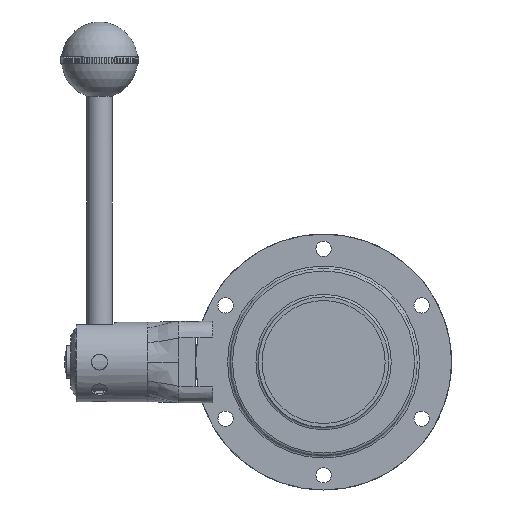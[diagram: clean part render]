
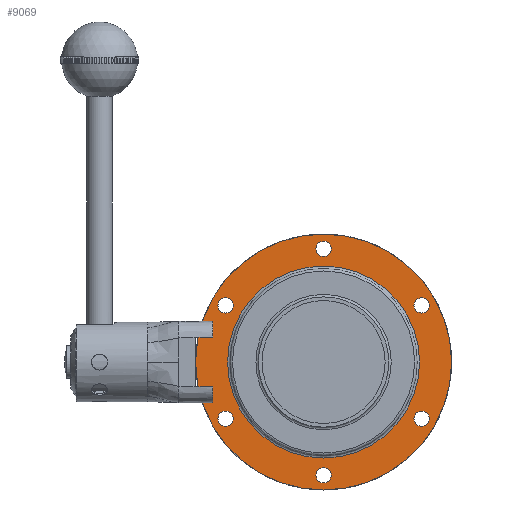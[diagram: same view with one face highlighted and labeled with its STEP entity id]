
A CAD part, left-side view. The second image highlights one B-rep face of the part: STEP entity #9069.
In plain terms, the highlighted planar face has unit normal (-1, 0, 0) as drawn and (1, 0, 0) by its records, which use the part's own axes.
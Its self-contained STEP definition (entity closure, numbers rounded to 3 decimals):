
#814=FACE_BOUND('',#2432,.T.);
#815=FACE_BOUND('',#2433,.T.);
#816=FACE_BOUND('',#2434,.T.);
#817=FACE_BOUND('',#2435,.T.);
#818=FACE_BOUND('',#2436,.T.);
#819=FACE_BOUND('',#2437,.T.);
#820=FACE_BOUND('',#2438,.T.);
#1166=PLANE('',#10199);
#1812=FACE_OUTER_BOUND('',#2431,.T.);
#2431=EDGE_LOOP('',(#8506));
#2432=EDGE_LOOP('',(#8507));
#2433=EDGE_LOOP('',(#8508));
#2434=EDGE_LOOP('',(#8509));
#2435=EDGE_LOOP('',(#8510));
#2436=EDGE_LOOP('',(#8511));
#2437=EDGE_LOOP('',(#8512));
#2438=EDGE_LOOP('',(#8513));
#3864=CIRCLE('',#10180,52.);
#3866=CIRCLE('',#10184,3.1);
#3867=CIRCLE('',#10186,3.1);
#3868=CIRCLE('',#10188,3.1);
#3869=CIRCLE('',#10190,3.1);
#3870=CIRCLE('',#10192,3.1);
#3871=CIRCLE('',#10194,3.1);
#3874=CIRCLE('',#10200,39.);
#4708=VERTEX_POINT('',#26194);
#4711=VERTEX_POINT('',#26222);
#4712=VERTEX_POINT('',#26226);
#4713=VERTEX_POINT('',#26230);
#4714=VERTEX_POINT('',#26234);
#4715=VERTEX_POINT('',#26238);
#4716=VERTEX_POINT('',#26242);
#4718=VERTEX_POINT('',#26251);
#5966=EDGE_CURVE('',#4708,#4708,#3864,.T.);
#5972=EDGE_CURVE('',#4711,#4711,#3866,.T.);
#5974=EDGE_CURVE('',#4712,#4712,#3867,.T.);
#5976=EDGE_CURVE('',#4713,#4713,#3868,.T.);
#5978=EDGE_CURVE('',#4714,#4714,#3869,.T.);
#5980=EDGE_CURVE('',#4715,#4715,#3870,.T.);
#5982=EDGE_CURVE('',#4716,#4716,#3871,.T.);
#5985=EDGE_CURVE('',#4718,#4718,#3874,.T.);
#8506=ORIENTED_EDGE('',*,*,#5966,.T.);
#8507=ORIENTED_EDGE('',*,*,#5972,.T.);
#8508=ORIENTED_EDGE('',*,*,#5974,.T.);
#8509=ORIENTED_EDGE('',*,*,#5976,.T.);
#8510=ORIENTED_EDGE('',*,*,#5978,.T.);
#8511=ORIENTED_EDGE('',*,*,#5980,.T.);
#8512=ORIENTED_EDGE('',*,*,#5982,.T.);
#8513=ORIENTED_EDGE('',*,*,#5985,.F.);
#9069=ADVANCED_FACE('',(#1812,#814,#815,#816,#817,#818,#819,#820),#1166,
 .T.);
#10180=AXIS2_PLACEMENT_3D('',#26195,#12695,#12696);
#10184=AXIS2_PLACEMENT_3D('',#26224,#12705,#12706);
#10186=AXIS2_PLACEMENT_3D('',#26228,#12710,#12711);
#10188=AXIS2_PLACEMENT_3D('',#26232,#12715,#12716);
#10190=AXIS2_PLACEMENT_3D('',#26236,#12720,#12721);
#10192=AXIS2_PLACEMENT_3D('',#26240,#12725,#12726);
#10194=AXIS2_PLACEMENT_3D('',#26244,#12730,#12731);
#10199=AXIS2_PLACEMENT_3D('',#26250,#12740,#12741);
#10200=AXIS2_PLACEMENT_3D('',#26252,#12742,#12743);
#12695=DIRECTION('center_axis',(1.,0.,0.));
#12696=DIRECTION('ref_axis',(0.,0.,-1.));
#12705=DIRECTION('center_axis',(-1.,0.,0.));
#12706=DIRECTION('ref_axis',(0.,0.,1.));
#12710=DIRECTION('center_axis',(-1.,0.,0.));
#12711=DIRECTION('ref_axis',(0.,0.,1.));
#12715=DIRECTION('center_axis',(-1.,0.,0.));
#12716=DIRECTION('ref_axis',(0.,0.,1.));
#12720=DIRECTION('center_axis',(-1.,0.,0.));
#12721=DIRECTION('ref_axis',(0.,0.,1.));
#12725=DIRECTION('center_axis',(-1.,0.,0.));
#12726=DIRECTION('ref_axis',(0.,0.,1.));
#12730=DIRECTION('center_axis',(-1.,0.,0.));
#12731=DIRECTION('ref_axis',(0.,0.,1.));
#12740=DIRECTION('center_axis',(1.,0.,0.));
#12741=DIRECTION('ref_axis',(0.,0.,-1.));
#12742=DIRECTION('center_axis',(1.,0.,0.));
#12743=DIRECTION('ref_axis',(0.,0.,-1.));
#26194=CARTESIAN_POINT('',(10.,-52.,0.));
#26195=CARTESIAN_POINT('Origin',(10.,0.,0.));
#26222=CARTESIAN_POINT('',(10.,-39.837,19.9));
#26224=CARTESIAN_POINT('Origin',(10.,-39.837,23.));
#26226=CARTESIAN_POINT('',(10.,0.,-49.1));
#26228=CARTESIAN_POINT('Origin',(10.,0.,-46.));
#26230=CARTESIAN_POINT('',(10.,0.,42.9));
#26232=CARTESIAN_POINT('Origin',(10.,0.,46.));
#26234=CARTESIAN_POINT('',(10.,39.837,-26.1));
#26236=CARTESIAN_POINT('Origin',(10.,39.837,-23.));
#26238=CARTESIAN_POINT('',(10.,-39.837,-26.1));
#26240=CARTESIAN_POINT('Origin',(10.,-39.837,-23.));
#26242=CARTESIAN_POINT('',(10.,39.837,19.9));
#26244=CARTESIAN_POINT('Origin',(10.,39.837,23.));
#26250=CARTESIAN_POINT('Origin',(10.,39.,0.));
#26251=CARTESIAN_POINT('',(10.,0.,39.));
#26252=CARTESIAN_POINT('Origin',(10.,0.,0.));
